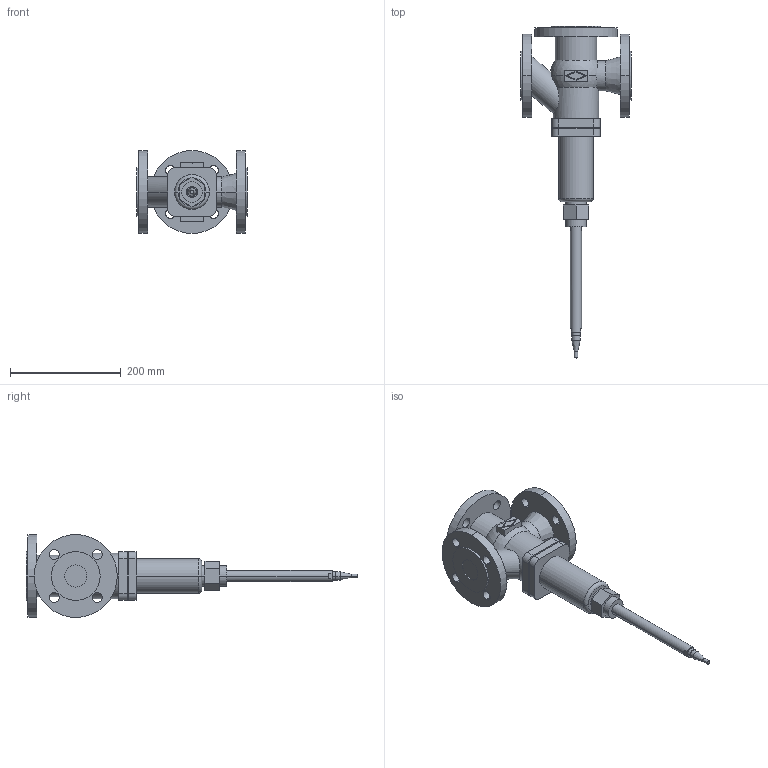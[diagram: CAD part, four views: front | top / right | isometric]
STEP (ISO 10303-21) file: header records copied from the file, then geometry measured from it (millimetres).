
FILE_DESCRIPTION(('CoCreate Modeling STEP Export'),'2;1');
FILE_NAME('c000004730.stp','2011-09-23T12:31:08',(''),(''),'CoCreate Modeling STEP processor for AP214 (Solid Model)','CoCreate Modeling 17.0 01-Apr-2010 (C) Parametric Technology GmbH','');
FILE_SCHEMA(('AUTOMOTIVE_DESIGN { 1 0 10303 214 1 1 1 1 }'));
Length unit declared in the file: millimetre
Products named in the file (1): 1
Bounding box: 200 x 600.44 x 150 mm (x, y, z)
Volume: 2631513.8 mm3; surface area: 251060 mm2
Topology: 1 solids, 1 shells, 142 faces, 347 edges, 227 vertices
Faces by surface type: cylinder 72, plane 60, sphere 4, cone 4, torus 2
Entity records: 5109 total; most frequent: CARTESIAN_POINT 856, ORIENTED_EDGE 694, DIRECTION 570, EDGE_CURVE 347, VERTEX_POINT 227, AXIS2_PLACEMENT_3D 202, EDGE_LOOP 186, VECTOR 166
